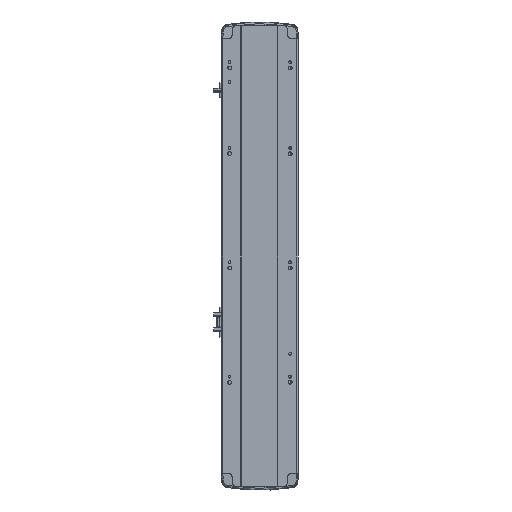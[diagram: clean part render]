
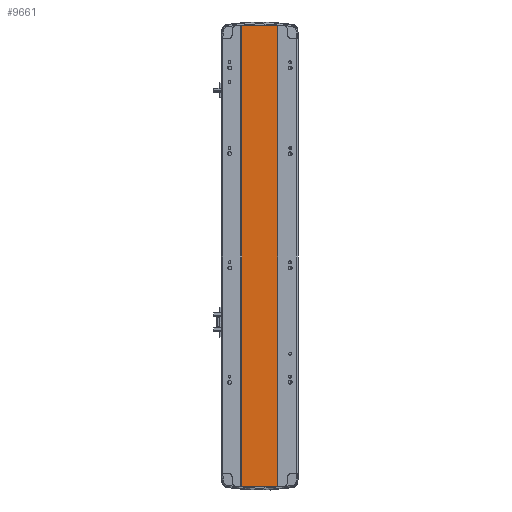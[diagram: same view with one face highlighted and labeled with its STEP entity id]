
A CAD part, front view. The second image highlights one B-rep face of the part: STEP entity #9661.
In plain terms, the highlighted planar face has unit normal (0, -1, 0).
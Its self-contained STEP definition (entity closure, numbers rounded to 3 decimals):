
#137 = EDGE_LOOP ( 'NONE', ( #10249, #6445, #45336, #22564 ) ) ;
#176 = LINE ( 'NONE', #24408, #30289 ) ;
#218 = DIRECTION ( 'NONE',  ( 0., 1., 0. ) ) ;
#3344 = CARTESIAN_POINT ( 'NONE',  ( -32., 1., 0. ) ) ;
#3829 = DIRECTION ( 'NONE',  ( -1., 0., 0. ) ) ;
#5305 = VERTEX_POINT ( 'NONE', #27455 ) ;
#5970 = VECTOR ( 'NONE', #42956, 1000. ) ;
#6445 = ORIENTED_EDGE ( 'NONE', *, *, #7510, .F. ) ;
#6690 = DIRECTION ( 'NONE',  ( 0., 0., -1. ) ) ;
#7510 = EDGE_CURVE ( 'NONE', #5305, #37149, #24129, .T. ) ;
#7868 = AXIS2_PLACEMENT_3D ( 'NONE', #21935, #218, #3829 ) ;
#9661 = ADVANCED_FACE ( 'NONE', ( #13267 ), #21627, .F. ) ;
#10129 = CARTESIAN_POINT ( 'NONE',  ( -32., 1., 0. ) ) ;
#10249 = ORIENTED_EDGE ( 'NONE', *, *, #42197, .T. ) ;
#13267 = FACE_OUTER_BOUND ( 'NONE', #137, .T. ) ;
#15496 = LINE ( 'NONE', #3344, #5970 ) ;
#15849 = CARTESIAN_POINT ( 'NONE',  ( -32., 1., 806. ) ) ;
#17347 = EDGE_CURVE ( 'NONE', #33170, #5305, #28011, .T. ) ;
#18554 = VECTOR ( 'NONE', #26880, 1000. ) ;
#21627 = PLANE ( 'NONE',  #7868 ) ;
#21935 = CARTESIAN_POINT ( 'NONE',  ( -32., 1., 806. ) ) ;
#22564 = ORIENTED_EDGE ( 'NONE', *, *, #25707, .T. ) ;
#22956 = VERTEX_POINT ( 'NONE', #10129 ) ;
#24129 = LINE ( 'NONE', #35835, #34126 ) ;
#24408 = CARTESIAN_POINT ( 'NONE',  ( -32., 1., 806. ) ) ;
#25707 = EDGE_CURVE ( 'NONE', #33170, #22956, #176, .T. ) ;
#26880 = DIRECTION ( 'NONE',  ( 1., 0., 0. ) ) ;
#27455 = CARTESIAN_POINT ( 'NONE',  ( 30., 1., 806. ) ) ;
#27947 = DIRECTION ( 'NONE',  ( 0., 0., -1. ) ) ;
#28011 = LINE ( 'NONE', #15849, #18554 ) ;
#30289 = VECTOR ( 'NONE', #27947, 1000. ) ;
#33170 = VERTEX_POINT ( 'NONE', #39117 ) ;
#34126 = VECTOR ( 'NONE', #6690, 1000. ) ;
#35835 = CARTESIAN_POINT ( 'NONE',  ( 30., 1., 806. ) ) ;
#37149 = VERTEX_POINT ( 'NONE', #43031 ) ;
#39117 = CARTESIAN_POINT ( 'NONE',  ( -32., 1., 806. ) ) ;
#42197 = EDGE_CURVE ( 'NONE', #22956, #37149, #15496, .T. ) ;
#42956 = DIRECTION ( 'NONE',  ( 1., 0., 0. ) ) ;
#43031 = CARTESIAN_POINT ( 'NONE',  ( 30., 1., 0. ) ) ;
#45336 = ORIENTED_EDGE ( 'NONE', *, *, #17347, .F. ) ;
